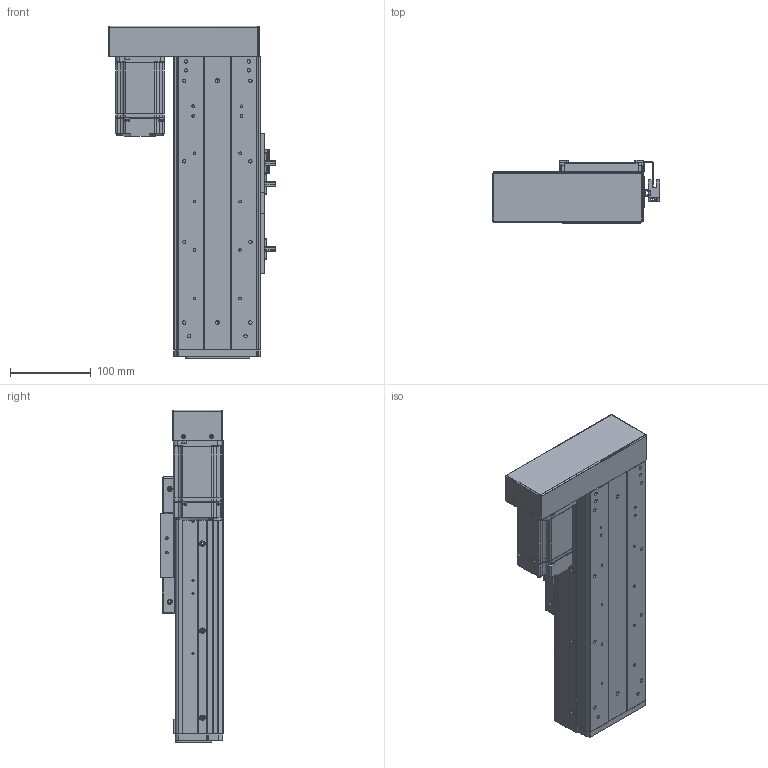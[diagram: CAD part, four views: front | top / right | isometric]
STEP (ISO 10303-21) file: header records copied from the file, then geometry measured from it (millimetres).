
FILE_DESCRIPTION (( 'STEP AP203' ), '1' );
FILE_NAME ('RY100FS-L1620-300-LK(15双轨).SLDASM_100.step', '2021-03-02T07:39:56', ( '盈信电脑' ), ( '东莞市道滘镇水果街19号' ), 'SwSTEP 2.0', 'SolidWorks 2012', '' );
FILE_SCHEMA (( 'CONFIG_CONTROL_DESIGN' ));
Length unit declared in the file: millimetre
Products named in the file (21): RY100FS-L1620-300-LK(15邧寢).SLDASM_100; 蚥薯蝶紫輸; RY100FS-15邧寢蛌殏萇儂欶; 1; RY100FS-15邧寢蛌殏萇儂啣; 滅袉蝶14-35; RY100F-詩湍揤踡輸; 覜茼ん672; RY100FS-双轨螺母座(16丝杆）; RY100FS-15邧寢蛌殏萇儂釱; RY100F-綴裔啣; RY80俋离覜茼え; 672嫖萇羲壽假蚾釱; RY100F-詩湍幗謫粣; RY100F-滅鳥裔啣; RY100F-詩湍揤踡謫; 棠沺沭; RY100FS-300-LK15絳寢倰第奻裔啣_100; RY100FS-300-LK15絳寢倰第菁釱_100; RY100FS-300-LK15邧寢祥凄詩湍_100; RY100FS-双轨铝滑块(上板）
Assembly tree (29 placements, depth 2):
  RY100FS-L1620-300-LK(15邧寢).SLDASM_100
    RY100FS-300-LK15絳寢倰第菁釱_100
    RY100FS-300-LK15絳寢倰第奻裔啣_100  x2
    RY100FS-300-LK15邧寢祥凄詩湍_100
    RY100FS-双轨铝滑块(上板）
    RY100F-滅鳥裔啣
    棠沺沭  x2
    RY100F-詩湍幗謫粣
    RY100F-詩湍揤踡謫  x2
    RY100F-綴裔啣
    672嫖萇羲壽假蚾釱  x2
    RY80俋离覜茼え  x2
    覜茼ん672  x3
    RY100F-詩湍揤踡輸  x2
    RY100FS-双轨螺母座(16丝杆）
    RY100FS-15邧寢蛌殏萇儂釱
    滅袉蝶14-35
    1
    RY100FS-15邧寢蛌殏萇儂啣
    RY100FS-15邧寢蛌殏萇儂欶
    蚥薯蝶紫輸  x2
Bounding box: 207.3 x 78.5 x 412 mm (x, y, z)
Volume: 1509401.9 mm3; surface area: 602174.7 mm2
Topology: 29 solids, 29 shells, 2131 faces, 5716 edges, 3682 vertices
Faces by surface type: plane 1012, cylinder 918, cone 168, bspline 33
Entity records: 59352 total; most frequent: CARTESIAN_POINT 11806, DIRECTION 9541, ORIENTED_EDGE 9240, EDGE_CURVE 4620, AXIS2_PLACEMENT_3D 3364, VERTEX_POINT 3030, VECTOR 2813, LINE 2813
